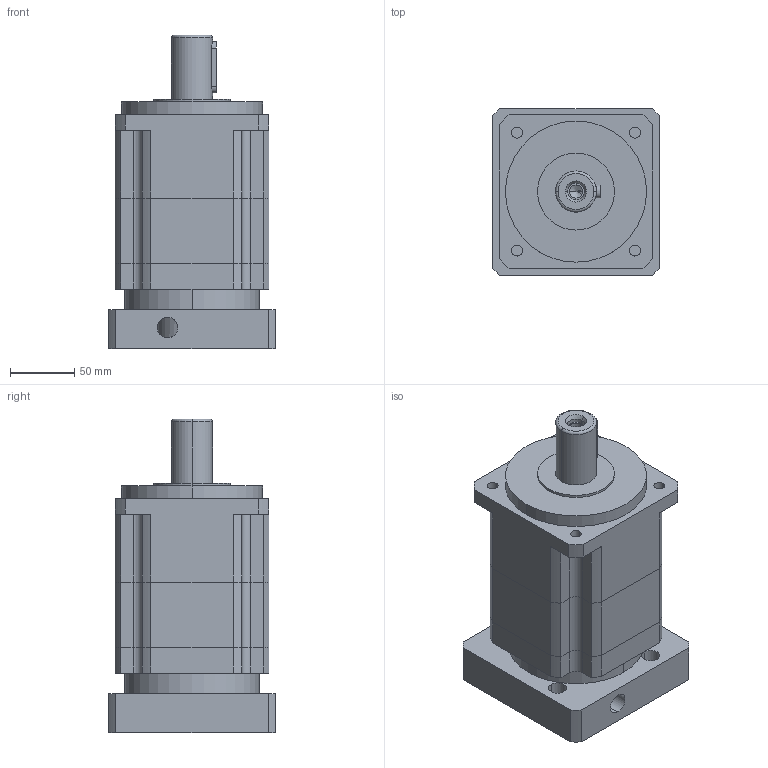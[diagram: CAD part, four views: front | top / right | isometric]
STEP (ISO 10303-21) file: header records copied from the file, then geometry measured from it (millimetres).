
FILE_DESCRIPTION (( 'STEP AP214' ), '1' );
FILE_NAME ('PX120-L2.STEP', '2020-01-06T03:20:23', ( '微软用户' ), ( '微软中国' ), 'SwSTEP 2.0', 'SolidWorks 2014', '' );
FILE_SCHEMA (( 'AUTOMOTIVE_DESIGN' ));
Length unit declared in the file: millimetre
Products named in the file (8): PX120-帣釱; PX120-薊粣ん_LZ03; PX120-本体齿圈; PX120-L2; 粣創-6009 45x75x16; PX120-二级齿圈; 囀鞠褒蹟佪-M8℅25; 邧埴瑩 10x8x40
Assembly tree (7 placements, depth 2):
  PX120-L2
    PX120-本体齿圈
    PX120-薊粣ん_LZ03
    PX120-帣釱
    囀鞠褒蹟佪-M8℅25
    邧埴瑩 10x8x40
    粣創-6009 45x75x16
    PX120-二级齿圈
Bounding box: 130 x 130 x 244.5 mm (x, y, z)
Volume: 2301454.4 mm3; surface area: 258146.9 mm2
Topology: 7 solids, 7 shells, 476 faces, 1365 edges, 894 vertices
Faces by surface type: cylinder 177, plane 137, sphere 96, torus 50, cone 16
Entity records: 23399 total; most frequent: CARTESIAN_POINT 7337, ORIENTED_EDGE 2710, DIRECTION 2639, EDGE_CURVE 1355, AXIS2_PLACEMENT_3D 1123, VERTEX_POINT 894, CIRCLE 637, EDGE_LOOP 559
